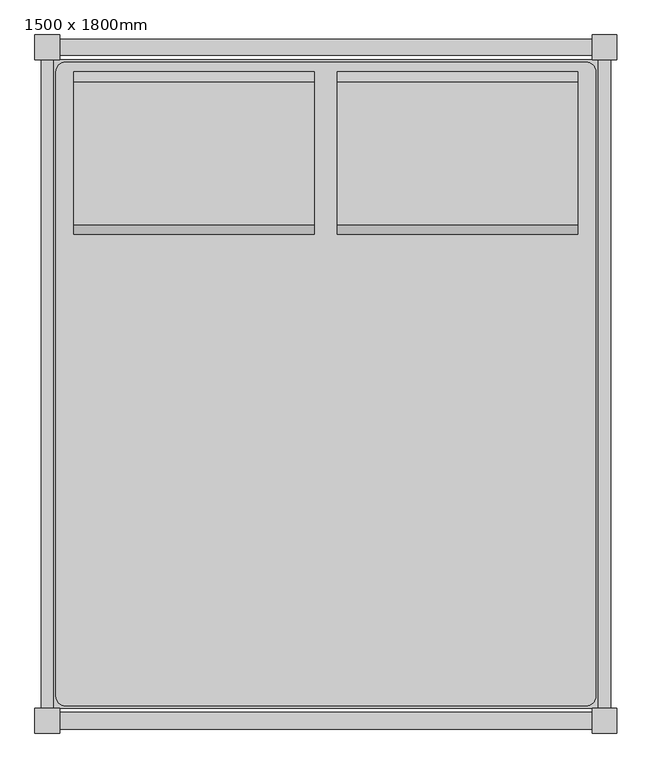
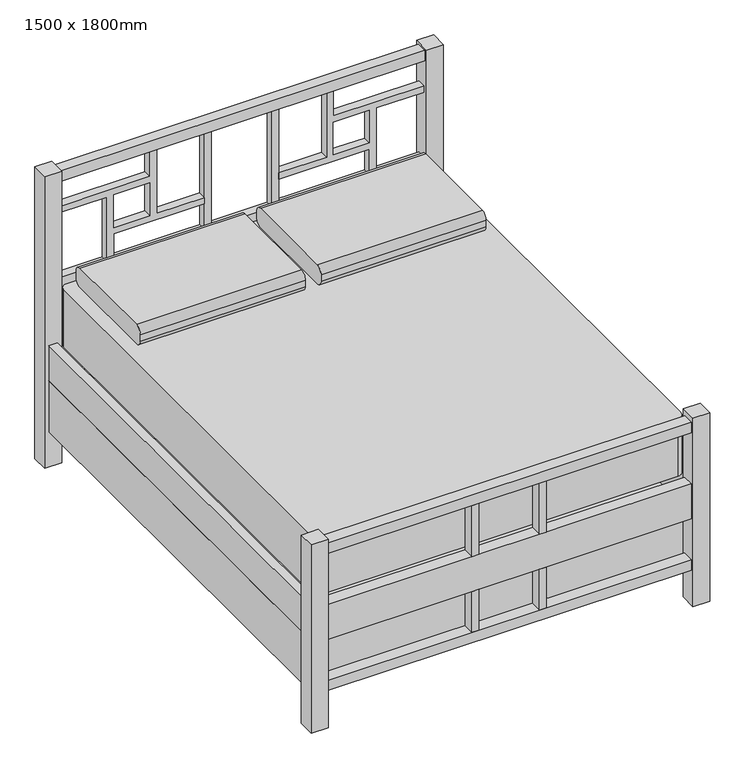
"""IFC4 building model written with IfcOpenShell, lengths in millimetres: furniture geometry, 床 (6)-雙人含床架 : 1500 x 1800mm."""

from ifc_helpers import new_model, si_unit, point, frame, frame_2d, origin, origin_with_axes, place, context, project, spatial, polyline, circle_curve, trimmed, segment, composite_curve, outline, extrude, source, transform, mapped, element, save


def furniture_1500_x_1800mm_307341c1(model_context):
    return source(origin(), model_context, "Body", "SweptSolid", [
        extrude(outline(polyline([(686.5, -1746.025), (686.5, -1790.475), (-686.5, -1790.475), (-686.5, -1746.025), (686.5, -1746.025)])), frame((0.0, 0.0, 685.8), z_axis=(0.0, 0.0, 1.0), x_axis=(1.0, 0.0, 0.0)), (0.0, 0.0, 1.0), 41.275),
        extrude(outline(composite_curve([segment(polyline([(670.625, -1730.15), (-670.625, -1730.15)]), True, "CONTINUOUS"), segment(trimmed(circle_curve(frame_2d((-670.625, -1704.75)), 25.4), [point((-670.625, -1730.15))], [point((-696.025, -1704.75))], False, "CARTESIAN"), True, "CONTINUOUS"), segment(polyline([(-696.025, -1704.75), (-696.025, -95.25)]), True, "CONTINUOUS"), segment(trimmed(circle_curve(frame_2d((-670.625, -95.25)), 25.4), [point((-696.025, -95.25))], [point((-670.625, -69.85))], False, "CARTESIAN"), True, "CONTINUOUS"), segment(polyline([(-670.625, -69.85), (670.625, -69.85)]), True, "CONTINUOUS"), segment(trimmed(circle_curve(frame_2d((670.625, -95.25)), 25.4), [point((670.625, -69.85))], [point((696.025, -95.25))], False, "CARTESIAN"), True, "CONTINUOUS"), segment(polyline([(696.025, -95.25), (696.025, -1704.75)]), True, "CONTINUOUS"), segment(trimmed(circle_curve(frame_2d((670.625, -1704.75)), 25.4), [point((696.025, -1704.75))], [point((670.625, -1730.15))], False, "CARTESIAN"), True, "CONTINUOUS")], self_intersect=False)), frame((0.0, 0.0, 482.6), z_axis=(0.0, 0.0, 1.0), x_axis=(1.0, 0.0, 0.0)), (0.0, 0.0, 1.0), 228.6),
        extrude(outline(polyline([(734.125, -1736.5), (-734.125, -1736.5), (-734.125, -63.5), (734.125, -63.5), (734.125, -1736.5)])), frame((0.0, 0.0, 139.7), z_axis=(0.0, 0.0, 1.0), x_axis=(1.0, 0.0, 0.0)), (0.0, 0.0, 1.0), 203.2),
        extrude(outline(polyline([(686.5, -47.625), (-686.5, -47.625), (-686.5, -15.875), (686.5, -15.875), (686.5, -47.625)])), frame((0.0, 0.0, 685.8), z_axis=(0.0, 0.0, 1.0), x_axis=(1.0, 0.0, 0.0)), (0.0, 0.0, 1.0), 41.275),
        extrude(outline(polyline([(686.5, -52.3875), (-686.5, -52.3875), (-686.5, -11.1125), (686.5, -11.1125), (686.5, -52.3875)])), frame((0.0, 0.0, 1111.25), z_axis=(0.0, 0.0, 1.0), x_axis=(1.0, 0.0, 0.0)), (0.0, 0.0, 1.0), 41.275),
        extrude(outline(polyline([(702.375, -63.5), (734.125, -63.5), (734.125, -1736.5), (702.375, -1736.5), (702.375, -63.5)])), frame((0.0, 0.0, 342.9), z_axis=(0.0, 0.0, 1.0), x_axis=(1.0, 0.0, 0.0)), (0.0, 0.0, 1.0), 139.7),
        extrude(outline(polyline([(686.5, -47.625), (-686.5, -47.625), (-686.5, -15.875), (686.5, -15.875), (686.5, -47.625)])), frame((0.0, 0.0, 342.9), z_axis=(0.0, 0.0, 1.0), x_axis=(1.0, 0.0, 0.0)), (0.0, 0.0, 1.0), 139.7),
        extrude(outline(polyline([(-702.375, -63.5), (-702.375, -1736.5), (-734.125, -1736.5), (-734.125, -63.5), (-702.375, -63.5)])), frame((0.0, 0.0, 342.9), z_axis=(0.0, 0.0, 1.0), x_axis=(1.0, 0.0, 0.0)), (0.0, 0.0, 1.0), 139.7),
        extrude(outline(polyline([(686.5, 0.0), (750.0, 0.0), (750.0, -63.5), (686.5, -63.5), (686.5, 0.0)])), origin_with_axes(), (0.0, 0.0, 1.0), 1160.4625),
        extrude(outline(polyline([(-686.5, 0.0), (-686.5, -63.5), (-750.0, -63.5), (-750.0, 0.0), (-686.5, 0.0)])), origin_with_axes(), (0.0, 0.0, 1.0), 1160.4625),
        extrude(outline(polyline([(-686.5, -1800.0), (-750.0, -1800.0), (-750.0, -1736.5), (-686.5, -1736.5), (-686.5, -1800.0)])), origin_with_axes(), (0.0, 0.0, 1.0), 749.3),
        extrude(outline(polyline([(686.5, -1800.0), (686.5, -1736.5), (750.0, -1736.5), (750.0, -1800.0), (686.5, -1800.0)])), origin_with_axes(), (0.0, 0.0, 1.0), 749.3),
        extrude(outline(polyline([(1009.65, 345.1), (1111.25, 345.1), (1111.25, 319.7), (854.075, 319.7), (854.075, 139.7), (828.675, 139.7), (828.675, 481.1), (727.075, 481.1), (727.075, 506.5), (984.25, 506.5), (984.25, 686.5), (1009.65, 686.5), (1009.65, 345.1)]), holes=[polyline([(854.075, 345.1), (984.25, 345.1), (984.25, 481.1), (854.075, 481.1), (854.075, 345.1)])]), frame((0.0, -47.625, 0.0), z_axis=(0.0, 1.0, 0.0), x_axis=(0.0, 0.0, 1.0)), (0.0, 0.0, 1.0), 31.75),
        extrude(outline(polyline([(1009.65, -345.1), (1009.65, -686.5), (984.25, -686.5), (984.25, -506.5), (727.075, -506.5), (727.075, -481.1), (828.675, -481.1), (828.675, -139.7), (854.075, -139.7), (854.075, -319.7), (1111.25, -319.7), (1111.25, -345.1), (1009.65, -345.1)]), holes=[polyline([(854.075, -345.1), (854.075, -481.1), (984.25, -481.1), (984.25, -345.1), (854.075, -345.1)])]), frame((0.0, -47.625, 0.0), z_axis=(0.0, 1.0, 0.0), x_axis=(0.0, 0.0, 1.0)), (0.0, 0.0, 1.0), 31.75),
        extrude(outline(polyline([(-114.3, -15.875), (-114.3, -47.625), (-139.7, -47.625), (-139.7, -15.875), (-114.3, -15.875)])), frame((0.0, 0.0, 727.075), z_axis=(0.0, 0.0, 1.0), x_axis=(1.0, 0.0, 0.0)), (0.0, 0.0, 1.0), 384.175),
        extrude(outline(polyline([(114.3, -15.875), (139.7, -15.875), (139.7, -47.625), (114.3, -47.625), (114.3, -15.875)])), frame((0.0, 0.0, 727.075), z_axis=(0.0, 0.0, 1.0), x_axis=(1.0, 0.0, 0.0)), (0.0, 0.0, 1.0), 384.175),
        extrude(outline(polyline([(-114.3, -1790.475), (-139.7, -1790.475), (-139.7, -1746.025), (-114.3, -1746.025), (-114.3, -1790.475)])), frame((0.0, 0.0, 482.6), z_axis=(0.0, 0.0, 1.0), x_axis=(1.0, 0.0, 0.0)), (0.0, 0.0, 1.0), 203.2),
        extrude(outline(polyline([(114.3, -1790.475), (114.3, -1746.025), (139.7, -1746.025), (139.7, -1790.475), (114.3, -1790.475)])), frame((0.0, 0.0, 482.6), z_axis=(0.0, 0.0, 1.0), x_axis=(1.0, 0.0, 0.0)), (0.0, 0.0, 1.0), 203.2),
        extrude(outline(polyline([(-114.3, -1790.475), (-139.7, -1790.475), (-139.7, -1746.025), (-114.3, -1746.025), (-114.3, -1790.475)])), frame((0.0, 0.0, 180.975), z_axis=(0.0, 0.0, 1.0), x_axis=(1.0, 0.0, 0.0)), (0.0, 0.0, 1.0), 161.925),
        extrude(outline(polyline([(114.3, -1790.475), (114.3, -1746.025), (139.7, -1746.025), (139.7, -1790.475), (114.3, -1790.475)])), frame((0.0, 0.0, 180.975), z_axis=(0.0, 0.0, 1.0), x_axis=(1.0, 0.0, 0.0)), (0.0, 0.0, 1.0), 161.925),
        extrude(outline(polyline([(686.5, -47.625), (-686.5, -47.625), (-686.5, -15.875), (686.5, -15.875), (686.5, -47.625)])), frame((0.0, 0.0, 139.7), z_axis=(0.0, 0.0, 1.0), x_axis=(1.0, 0.0, 0.0)), (0.0, 0.0, 1.0), 41.275),
        extrude(outline(polyline([(686.5, -1790.475), (-686.5, -1790.475), (-686.5, -1746.025), (686.5, -1746.025), (686.5, -1790.475)])), frame((0.0, 0.0, 139.7), z_axis=(0.0, 0.0, 1.0), x_axis=(1.0, 0.0, 0.0)), (0.0, 0.0, 1.0), 41.275),
        extrude(outline(polyline([(686.5, -1746.025), (686.5, -1790.475), (-686.5, -1790.475), (-686.5, -1746.025), (686.5, -1746.025)])), frame((0.0, 0.0, 342.9), z_axis=(0.0, 0.0, 1.0), x_axis=(1.0, 0.0, 0.0)), (0.0, 0.0, 1.0), 139.7),
        extrude(outline(composite_curve([segment(trimmed(circle_curve(frame_2d((-488.8329156, 744.5641526)), 25.4), [point((-488.8329156, 719.1641526))], [point((-514.2329156, 744.5641526))], False, "CARTESIAN"), True, "CONTINUOUS"), segment(polyline([(-514.2329156, 744.5641526), (-514.2329156, 769.9641526)]), True, "CONTINUOUS"), segment(trimmed(circle_curve(frame_2d((-488.8329156, 769.9641526)), 25.4), [point((-514.2329156, 769.9641526))], [point((-488.8329156, 795.3641526))], False, "CARTESIAN"), True, "CONTINUOUS"), segment(polyline([(-488.8329156, 795.3641526), (-120.5329156, 795.3641526)]), True, "CONTINUOUS"), segment(trimmed(circle_curve(frame_2d((-120.5329156, 769.9641526)), 25.4), [point((-120.5329156, 795.3641526))], [point((-95.1329156, 769.9641526))], False, "CARTESIAN"), True, "CONTINUOUS"), segment(polyline([(-95.1329156, 769.9641526), (-95.1329156, 744.5641526)]), True, "CONTINUOUS"), segment(trimmed(circle_curve(frame_2d((-120.5329156, 744.5641526)), 25.4), [point((-95.1329156, 744.5641526))], [point((-120.5329156, 719.1641526))], False, "CARTESIAN"), True, "CONTINUOUS"), segment(polyline([(-120.5329156, 719.1641526), (-488.8329156, 719.1641526)]), True, "CONTINUOUS")], self_intersect=False)), frame((30.0, 0.0, 0.0), z_axis=(1.0, 0.0, 0.0), x_axis=(0.0, 1.0, 0.0)), (0.0, 0.0, 1.0), 620.0),
        extrude(outline(composite_curve([segment(trimmed(circle_curve(frame_2d((-488.8329156, 744.5641526)), 25.4), [point((-488.8329156, 719.1641526))], [point((-514.2329156, 744.5641526))], False, "CARTESIAN"), True, "CONTINUOUS"), segment(polyline([(-514.2329156, 744.5641526), (-514.2329156, 769.9641526)]), True, "CONTINUOUS"), segment(trimmed(circle_curve(frame_2d((-488.8329156, 769.9641526)), 25.4), [point((-514.2329156, 769.9641526))], [point((-488.8329156, 795.3641526))], False, "CARTESIAN"), True, "CONTINUOUS"), segment(polyline([(-488.8329156, 795.3641526), (-120.5329156, 795.3641526)]), True, "CONTINUOUS"), segment(trimmed(circle_curve(frame_2d((-120.5329156, 769.9641526)), 25.4), [point((-120.5329156, 795.3641526))], [point((-95.1329156, 769.9641526))], False, "CARTESIAN"), True, "CONTINUOUS"), segment(polyline([(-95.1329156, 769.9641526), (-95.1329156, 744.5641526)]), True, "CONTINUOUS"), segment(trimmed(circle_curve(frame_2d((-120.5329156, 744.5641526)), 25.4), [point((-95.1329156, 744.5641526))], [point((-120.5329156, 719.1641526))], False, "CARTESIAN"), True, "CONTINUOUS"), segment(polyline([(-120.5329156, 719.1641526), (-488.8329156, 719.1641526)]), True, "CONTINUOUS")], self_intersect=False)), frame((-650.0, 0.0, 0.0), z_axis=(1.0, 0.0, 0.0), x_axis=(0.0, 1.0, 0.0)), (0.0, 0.0, 1.0), 620.0),
    ])


if __name__ == "__main__":
    model = new_model("IFC4")
    model_context = context("Model", 3, world=origin())
    ifc_project = project(units=[si_unit("LENGTHUNIT", "METRE", prefix="MILLI")], contexts=[model_context])
    site = spatial("IfcSite", under=ifc_project)
    building = spatial("IfcBuilding", under=site)
    placement = place(None, origin())
    furniture_1500_x_1800mm_shape = furniture_1500_x_1800mm_307341c1(model_context)
    element("IfcFurniture", 1, ObjectType="床 (6)-雙人含床架 : 1500 x 1800mm", at=placement, inside=building, context=model_context, shape_type="MappedRepresentation", body=[
        mapped(furniture_1500_x_1800mm_shape, transform((0.0, 0.0, 0.0), x_axis=(1.0, 0.0, 0.0), y_axis=(0.0, 1.0, 0.0), z_axis=(0.0, 0.0, 1.0))),
    ])
    save(model, "model.ifc")
